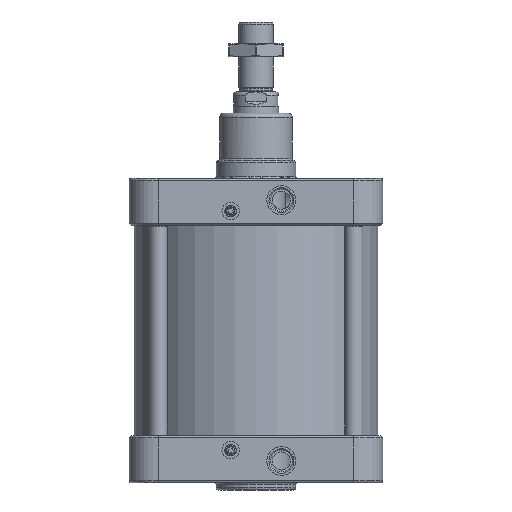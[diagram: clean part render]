
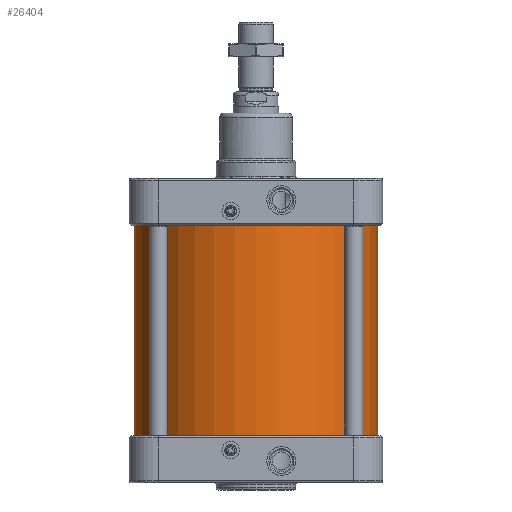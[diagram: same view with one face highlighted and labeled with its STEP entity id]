
A CAD part, front view. The second image highlights one B-rep face of the part: STEP entity #26404.
In plain terms, the highlighted cylindrical face has radius 168 mm (diameter 336 mm), a full revolution.
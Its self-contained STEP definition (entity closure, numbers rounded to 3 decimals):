
#2804=CIRCLE('',#29645,168.);
#2805=CIRCLE('',#29647,168.);
#3478=FACE_BOUND('',#7098,.T.);
#5147=FACE_OUTER_BOUND('',#7097,.T.);
#7097=EDGE_LOOP('',(#22547));
#7098=EDGE_LOOP('',(#22548));
#11979=VERTEX_POINT('',#64759);
#11980=VERTEX_POINT('',#64762);
#15511=EDGE_CURVE('',#11979,#11979,#2804,.T.);
#15512=EDGE_CURVE('',#11980,#11980,#2805,.T.);
#22547=ORIENTED_EDGE('',*,*,#15511,.T.);
#22548=ORIENTED_EDGE('',*,*,#15512,.T.);
#23070=CYLINDRICAL_SURFACE('',#29646,168.);
#26404=ADVANCED_FACE('',(#5147,#3478),#23070,.T.);
#29645=AXIS2_PLACEMENT_3D('',#64760,#36878,#36879);
#29646=AXIS2_PLACEMENT_3D('',#64761,#36880,#36881);
#29647=AXIS2_PLACEMENT_3D('',#64763,#36882,#36883);
#36878=DIRECTION('center_axis',(0.,0.,1.));
#36879=DIRECTION('ref_axis',(-1.,0.,0.));
#36880=DIRECTION('center_axis',(0.,0.,1.));
#36881=DIRECTION('ref_axis',(-1.,0.,0.));
#36882=DIRECTION('center_axis',(0.,0.,-1.));
#36883=DIRECTION('ref_axis',(-1.,0.,0.));
#64759=CARTESIAN_POINT('',(168.,0.,-145.));
#64760=CARTESIAN_POINT('Origin',(0.,0.,-145.));
#64761=CARTESIAN_POINT('Origin',(0.,0.,0.));
#64762=CARTESIAN_POINT('',(168.,0.,145.));
#64763=CARTESIAN_POINT('Origin',(0.,0.,145.));
